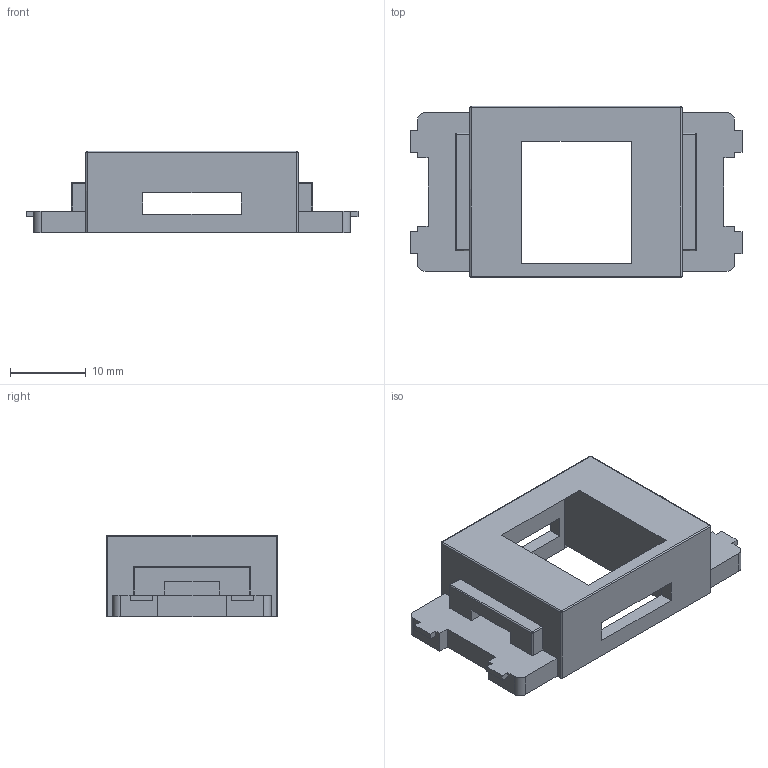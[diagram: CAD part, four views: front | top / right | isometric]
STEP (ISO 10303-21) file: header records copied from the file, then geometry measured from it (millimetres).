
FILE_DESCRIPTION( ('This file contains a STEP AP42 implementation' ,'as created by ZW3D STEP Interface translator.') ,'2;1' );
FILE_NAME( 'TB-019_SY-NWT-KH-xx_SD.stp' ,'26 320. 94943', (''), ('ZWCAD Software Co.'), 'Version 1.0', 'ZW3D to STEP translator', '' );
FILE_SCHEMA(('AUTOMOTIVE_DESIGN'));
Length unit declared in the file: millimetre
Products named in the file (2): 0; TB-019_SY-NWT-KH-xx_SD
Bounding box: 43.95 x 22.65 x 10.85 mm (x, y, z)
Volume: 3114.1 mm3; surface area: 4036.6 mm2
Topology: 1 solids, 1 shells, 111 faces, 313 edges, 200 vertices
Faces by surface type: bspline 111
Entity records: 5045 total; most frequent: CARTESIAN_POINT 3019, ORIENTED_EDGE 626, B_SPLINE_CURVE_WITH_KNOTS 313, EDGE_CURVE 313, VERTEX_POINT 200, EDGE_LOOP 117, FACE_OUTER_BOUND 111, ADVANCED_FACE 111
